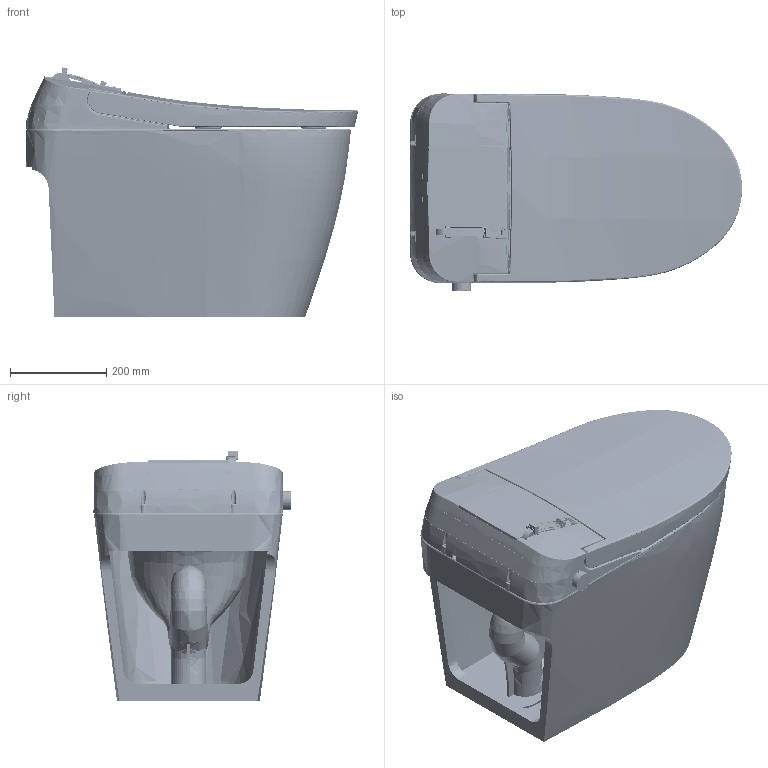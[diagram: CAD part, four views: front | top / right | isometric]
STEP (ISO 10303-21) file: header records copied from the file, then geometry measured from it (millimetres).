
FILE_DESCRIPTION(/* description */ (''),/* implementation_level */ '2;1');
FILE_NAME(/* name */ 'T4.stp',/* time_stamp */ '2024-03-27T11:30:44+08:00',/* author */ (''),/* organization */ (''),/* preprocessor_version */ 'ST-DEVELOPER v11',/* originating_system */ 'SIEMENS PLM Software NX 7.5',/* authorisation */ '');
FILE_SCHEMA (('CONFIG_CONTROL_DESIGN'));
Products named in the file (1): AdmiCB78zli5
Bounding box: 688.49 x 408.73 x 516.65 mm (x, y, z)
Volume: 16219159.4 mm3; surface area: 4510638.7 mm2
Topology: 34 solids, 40 shells, 8038 faces, 22110 edges, 14255 vertices
Faces by surface type: bspline 2854, plane 2584, cylinder 1782, cone 323, torus 273, sphere 108, extrusion 92, revolution 22
Full cylindrical faces by diameter (mm): 1.5 x20, 2 x2, 2.2 x10, 2.289 x45, 2.3 x18, 2.488 x5, 2.7 x1, 2.8 x1, 3 x9, 3.2 x4, 3.284 x10, 3.5 x4, 4 x4, 4.478 x2, 4.5 x4, 5 x11, 6 x54, 6.001 x1, 6.965 x7, 7 x10, 9 x4, 10 x1, 11 x8, 12.3 x1, 15 x1, 16 x16, 16.4 x1, 45 x2
Entity records: 442056 total; most frequent: CARTESIAN_POINT 272076, ORIENTED_EDGE 42318, DIRECTION 24406, EDGE_CURVE 21172, VERTEX_POINT 13905, B_SPLINE_CURVE_WITH_KNOTS 10552, AXIS2_PLACEMENT_3D 9400, EDGE_LOOP 9030
